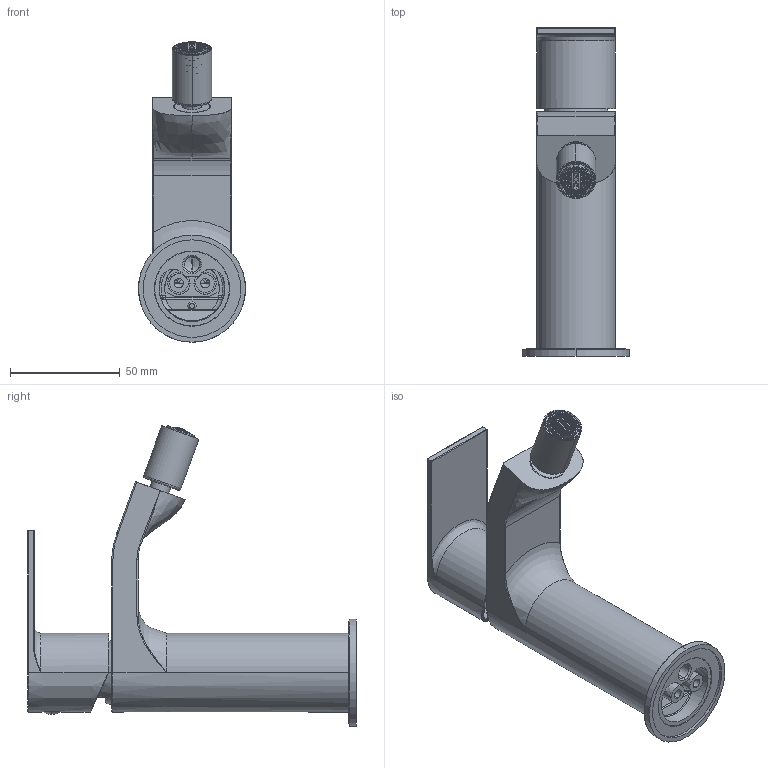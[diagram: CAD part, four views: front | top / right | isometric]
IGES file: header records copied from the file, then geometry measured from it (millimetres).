
Start section:  PTC IGES file: 83080.igs
Global section: file name: 83080.igs; native system: Creo Parametric by PTC Inc.; preprocessor: 2022014; author: carloff; organization: Unknown; date: 20260130.134218; units: millimetre
Bounding box: 48.8 x 149.8 x 136.91 mm (x, y, z)
Surface area: 74435 mm2 (no closed solid volume)
Topology: 0 solids, 0 shells, 3306 faces, 18921 edges, 18894 vertices
Faces by surface type: bspline 2147, revolution 1156, extrusion 3
